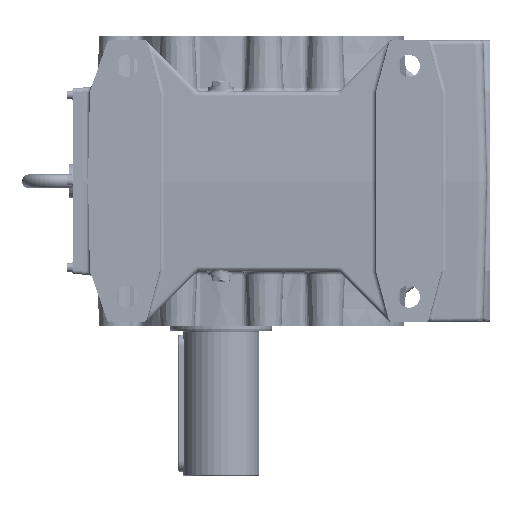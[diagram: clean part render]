
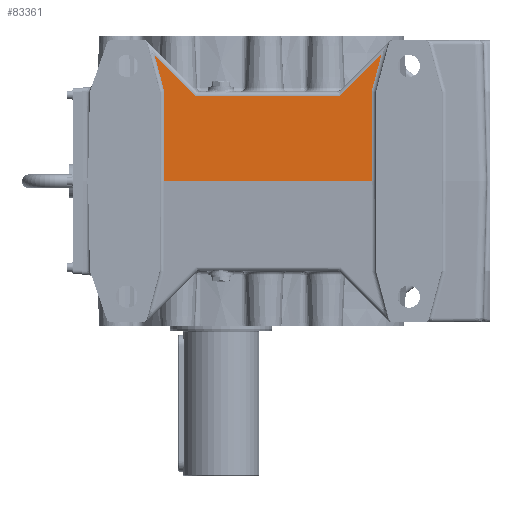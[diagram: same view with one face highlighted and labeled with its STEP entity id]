
A CAD part, left-side view. The second image highlights one B-rep face of the part: STEP entity #83361.
In plain terms, the highlighted planar face has unit normal (-1, 0, 0.026).
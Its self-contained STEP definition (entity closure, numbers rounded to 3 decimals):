
#58866=CARTESIAN_POINT('',(-192.128,29.571,100.131));
#58867=VERTEX_POINT('',#58866);
#58875=CARTESIAN_POINT('',(-192.128,-139.571,100.131));
#58876=VERTEX_POINT('',#58875);
#58877=CARTESIAN_POINT('',(-192.128,29.571,100.131));
#58878=DIRECTION('',(0.0,-1.0,0.0));
#58879=VECTOR('',#58878,169.142);
#58880=LINE('',#58877,#58879);
#58881=EDGE_CURVE('',#58867,#58876,#58880,.T.);
#65025=CARTESIAN_POINT('',(-191.986,-176.5,105.524));
#65026=VERTEX_POINT('',#65025);
#65081=CARTESIAN_POINT('',(-190.86,-187.967,148.527));
#65082=VERTEX_POINT('',#65081);
#65090=CARTESIAN_POINT('',(-190.86,-187.967,148.527));
#65091=DIRECTION('',(-0.025,0.258,-0.966));
#65092=VECTOR('',#65091,44.52);
#65093=LINE('',#65090,#65092);
#65094=EDGE_CURVE('',#65082,#65026,#65093,.T.);
#65423=CARTESIAN_POINT('',(-194.75,66.5,0.0));
#65424=VERTEX_POINT('',#65423);
#65508=CARTESIAN_POINT('',(-191.986,66.5,105.524));
#65509=VERTEX_POINT('',#65508);
#65588=CARTESIAN_POINT('',(-190.86,77.967,148.527));
#65589=VERTEX_POINT('',#65588);
#65590=CARTESIAN_POINT('',(-191.986,66.5,105.524));
#65591=DIRECTION('',(0.025,0.258,0.966));
#65592=VECTOR('',#65591,44.52);
#65593=LINE('',#65590,#65592);
#65594=EDGE_CURVE('',#65509,#65589,#65593,.T.);
#66715=CARTESIAN_POINT('',(-194.75,66.5,0.));
#66716=DIRECTION('',(0.026,0.0,1.));
#66717=VECTOR('',#66716,105.561);
#66718=LINE('',#66715,#66717);
#66719=EDGE_CURVE('',#65424,#65509,#66718,.T.);
#67466=CARTESIAN_POINT('',(-194.75,-176.5,0.0));
#67467=VERTEX_POINT('',#67466);
#67491=CARTESIAN_POINT('',(-191.986,-176.5,105.524));
#67492=DIRECTION('',(-0.026,0.0,-1.));
#67493=VECTOR('',#67492,105.561);
#67494=LINE('',#67491,#67493);
#67495=EDGE_CURVE('',#65026,#67467,#67494,.T.);
#69713=CARTESIAN_POINT('',(-192.128,-139.571,100.131));
#69714=DIRECTION('',(0.019,-0.707,0.707));
#69715=VECTOR('',#69714,68.455);
#69716=LINE('',#69713,#69715);
#69717=EDGE_CURVE('',#58876,#65082,#69716,.T.);
#69859=CARTESIAN_POINT('',(-190.86,77.967,148.527));
#69860=DIRECTION('',(-0.019,-0.707,-0.707));
#69861=VECTOR('',#69860,68.455);
#69862=LINE('',#69859,#69861);
#69863=EDGE_CURVE('',#65589,#58867,#69862,.T.);
#83341=CARTESIAN_POINT('',(-194.749,-307.0,0.036));
#83342=DIRECTION('',(-1.,0.,0.026));
#83343=DIRECTION('',(0.026,0.,1.));
#83344=AXIS2_PLACEMENT_3D('',#83341,#83342,#83343);
#83345=PLANE('',#83344);
#83346=ORIENTED_EDGE('',*,*,#66719,.F.);
#83347=CARTESIAN_POINT('',(-194.75,66.5,0.0));
#83348=DIRECTION('',(0.0,-1.0,0.0));
#83349=VECTOR('',#83348,243.0);
#83350=LINE('',#83347,#83349);
#83351=EDGE_CURVE('',#65424,#67467,#83350,.T.);
#83352=ORIENTED_EDGE('',*,*,#83351,.T.);
#83353=ORIENTED_EDGE('',*,*,#67495,.F.);
#83354=ORIENTED_EDGE('',*,*,#65094,.F.);
#83355=ORIENTED_EDGE('',*,*,#69717,.F.);
#83356=ORIENTED_EDGE('',*,*,#58881,.F.);
#83357=ORIENTED_EDGE('',*,*,#69863,.F.);
#83358=ORIENTED_EDGE('',*,*,#65594,.F.);
#83359=EDGE_LOOP('',(#83346,#83352,#83353,#83354,#83355,#83356,#83357,#83358));
#83360=FACE_OUTER_BOUND('',#83359,.T.);
#83361=ADVANCED_FACE('',(#83360),#83345,.T.);
